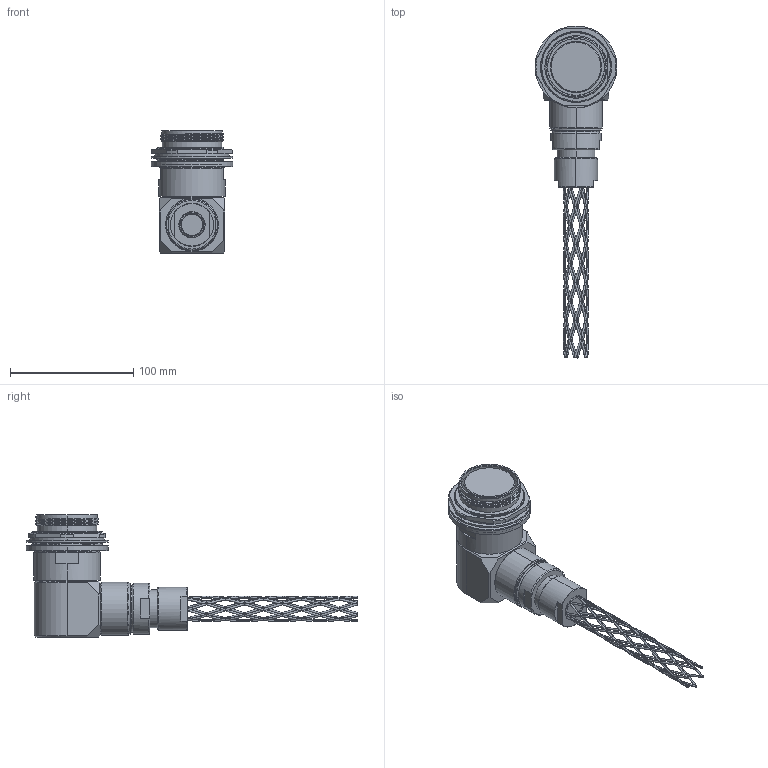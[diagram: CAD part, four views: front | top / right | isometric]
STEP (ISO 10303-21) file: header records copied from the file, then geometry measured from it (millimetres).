
FILE_DESCRIPTION (( 'STEP AP214' ), '1' );
FILE_NAME ('QLINK90-RJTX-31XX-GXXX.STEP', '2025-10-23T15:06:07', ( '' ), ( '' ), 'SwSTEP 2.0', 'SolidWorks 2024', '' );
FILE_SCHEMA (( 'AUTOMOTIVE_DESIGN' ));
Length unit declared in the file: millimetre
Products named in the file (1): QLINK90-RJTX-31XX-GXXX
Bounding box: 66.42 x 269.04 x 99.31 mm (x, y, z)
Volume: 320688.3 mm3; surface area: 57797.8 mm2
Topology: 2 solids, 4 shells, 511 faces, 1406 edges, 818 vertices
Faces by surface type: bspline 255, cylinder 93, plane 87, cone 53, torus 23
Entity records: 127587 total; most frequent: CARTESIAN_POINT 117555, ORIENTED_EDGE 2812, EDGE_CURVE 1406, DIRECTION 1394, VERTEX_POINT 818, AXIS2_PLACEMENT_3D 579, EDGE_LOOP 542, ADVANCED_FACE 511
